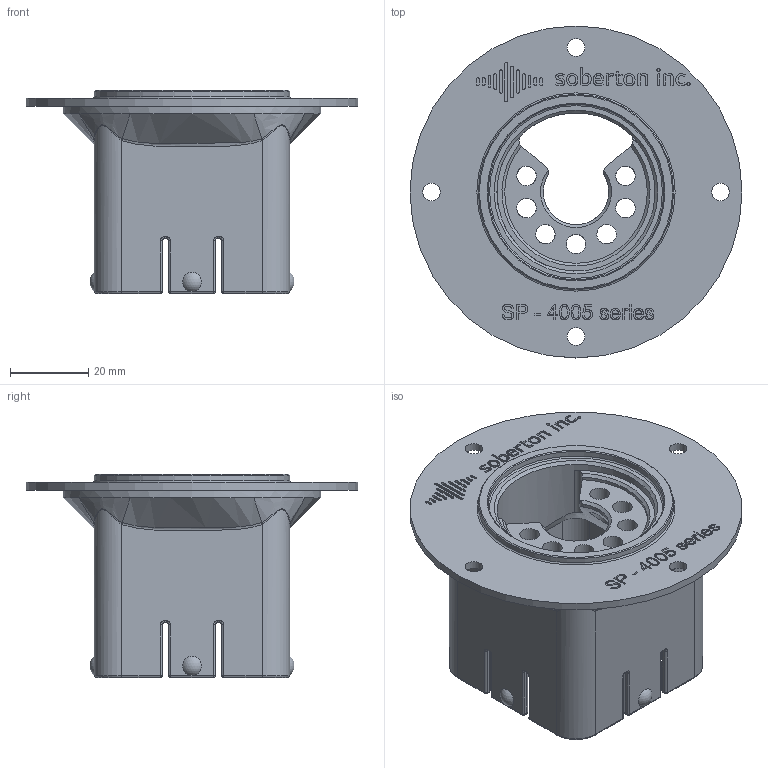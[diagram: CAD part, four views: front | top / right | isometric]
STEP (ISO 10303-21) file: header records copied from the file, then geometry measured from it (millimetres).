
FILE_DESCRIPTION(/* description */ ('Alibre Inc.'),/* implementation_level */ '2;1');
FILE_NAME(/* name */ 'export-346A32E8-18BF-4358-A95C-C3C06DDFF058',/* time_stamp */ '2020-08-19T17:16:18-05:00',/* author */ (''),/* organization */ (''),/* preprocessor_version */ 'ST-DEVELOPER v17',/* originating_system */ 'Alibre',/* authorisation */ '');
FILE_SCHEMA (('AUTOMOTIVE_DESIGN'));
Length unit declared in the file: millimetre
Bounding box: 85 x 85 x 52 mm (x, y, z)
Volume: 53022.2 mm3; surface area: 26806.9 mm2
Topology: 1 solids, 2 shells, 859 faces, 2272 edges, 1440 vertices
Faces by surface type: bspline 387, plane 237, cylinder 156, torus 38, sphere 36, cone 5
Full cylindrical faces by diameter (mm): 0.649 x1, 4.5 x4, 5 x7, 40.5 x1, 45 x1, 50 x1, 66 x1, 85 x1
Entity records: 34322 total; most frequent: CARTESIAN_POINT 16157, ORIENTED_EDGE 4410, DIRECTION 2414, EDGE_CURVE 2205, VERTEX_POINT 1427, VECTOR 1046, LINE 1046, EDGE_LOOP 960
